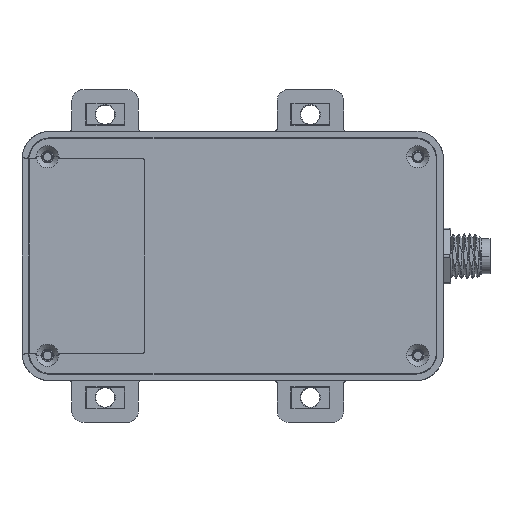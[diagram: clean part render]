
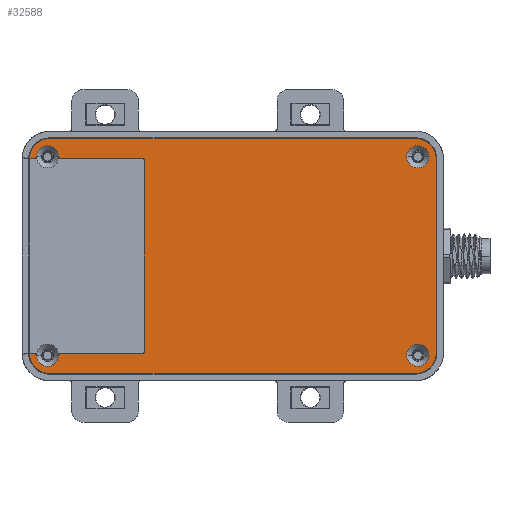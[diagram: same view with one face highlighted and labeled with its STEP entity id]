
A CAD part, top view. The second image highlights one B-rep face of the part: STEP entity #32588.
In plain terms, the highlighted planar face has unit normal (0, 0, 1).
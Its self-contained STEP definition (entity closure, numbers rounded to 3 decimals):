
#29401=CARTESIAN_POINT('',(-52.399,38.55,11.5));
#29402=DIRECTION('',(0.,0.,-1.));
#29403=DIRECTION('',(1.,-0.022,0.));
#29404=AXIS2_PLACEMENT_3D('',#29401,#29402,#29403);
#29406=DIRECTION('',(-1.,0.,0.));
#29407=VECTOR('',#29406,0.997);
#29408=CARTESIAN_POINT('',(-52.399,38.25,11.5));
#29409=LINE('',#29408,#29407);
#29410=CARTESIAN_POINT('',(-49.7,38.1,11.5));
#29411=DIRECTION('',(0.,0.,-1.));
#29412=DIRECTION('',(-0.999,0.041,0.));
#29413=AXIS2_PLACEMENT_3D('',#29410,#29411,#29412);
#29415=DIRECTION('',(1.,0.,0.));
#29416=VECTOR('',#29415,66.);
#29417=CARTESIAN_POINT('',(-49.7,41.8,11.5));
#29418=LINE('',#29417,#29416);
#29419=CARTESIAN_POINT('',(16.3,38.1,11.5));
#29420=DIRECTION('',(0.,0.,-1.));
#29421=DIRECTION('',(0.,1.,0.));
#29422=AXIS2_PLACEMENT_3D('',#29419,#29420,#29421);
#29424=DIRECTION('',(0.,-1.,0.));
#29425=VECTOR('',#29424,35.);
#29426=CARTESIAN_POINT('',(20.,38.1,11.5));
#29427=LINE('',#29426,#29425);
#29428=CARTESIAN_POINT('',(16.3,3.1,11.5));
#29429=DIRECTION('',(0.,0.,-1.));
#29430=DIRECTION('',(1.,0.,0.));
#29431=AXIS2_PLACEMENT_3D('',#29428,#29429,#29430);
#29433=DIRECTION('',(-1.,0.,0.));
#29434=VECTOR('',#29433,66.);
#29435=CARTESIAN_POINT('',(16.3,-0.6,11.5));
#29436=LINE('',#29435,#29434);
#29437=CARTESIAN_POINT('',(-49.7,3.1,11.5));
#29438=DIRECTION('',(0.,0.,-1.));
#29439=DIRECTION('',(0.,-1.,0.));
#29440=AXIS2_PLACEMENT_3D('',#29437,#29438,#29439);
#29442=CARTESIAN_POINT('',(-52.399,2.65,11.5));
#29443=DIRECTION('',(0.,0.,-1.));
#29444=DIRECTION('',(0.,1.,0.));
#29445=AXIS2_PLACEMENT_3D('',#29442,#29443,#29444);
#29447=CARTESIAN_POINT('',(-50.1,2.7,11.5));
#29448=DIRECTION('',(0.,0.,1.));
#29449=DIRECTION('',(-1.,-0.022,0.));
#29450=AXIS2_PLACEMENT_3D('',#29447,#29448,#29449);
#29452=CARTESIAN_POINT('',(-47.801,2.65,11.5));
#29453=DIRECTION('',(0.,0.,-1.));
#29454=DIRECTION('',(-1.,0.022,0.));
#29455=AXIS2_PLACEMENT_3D('',#29452,#29453,#29454);
#29457=CARTESIAN_POINT('',(-32.991,3.25,11.5));
#29458=DIRECTION('',(0.,0.,1.));
#29459=DIRECTION('',(0.,-1.,0.));
#29460=AXIS2_PLACEMENT_3D('',#29457,#29458,#29459);
#29462=CARTESIAN_POINT('',(-32.991,37.95,11.5));
#29463=DIRECTION('',(0.,0.,1.));
#29464=DIRECTION('',(1.,0.,0.));
#29465=AXIS2_PLACEMENT_3D('',#29462,#29463,#29464);
#29467=DIRECTION('',(-1.,0.,0.));
#29468=VECTOR('',#29467,14.809);
#29469=CARTESIAN_POINT('',(-32.991,38.25,11.5));
#29470=LINE('',#29469,#29468);
#29471=CARTESIAN_POINT('',(-47.801,38.55,11.5));
#29472=DIRECTION('',(0.,0.,-1.));
#29473=DIRECTION('',(0.,-1.,0.));
#29474=AXIS2_PLACEMENT_3D('',#29471,#29472,#29473);
#29476=CARTESIAN_POINT('',(-50.1,38.5,11.5));
#29477=DIRECTION('',(0.,0.,1.));
#29478=DIRECTION('',(1.,0.022,0.));
#29479=AXIS2_PLACEMENT_3D('',#29476,#29477,#29478);
#29481=CARTESIAN_POINT('',(16.7,2.7,11.5));
#29482=DIRECTION('',(0.,0.,1.));
#29483=DIRECTION('',(1.,0.,0.));
#29484=AXIS2_PLACEMENT_3D('',#29481,#29482,#29483);
#29486=CARTESIAN_POINT('',(16.7,2.7,11.5));
#29487=DIRECTION('',(0.,0.,1.));
#29488=DIRECTION('',(-1.,0.,0.));
#29489=AXIS2_PLACEMENT_3D('',#29486,#29487,#29488);
#29491=CARTESIAN_POINT('',(16.7,38.5,11.5));
#29492=DIRECTION('',(0.,0.,1.));
#29493=DIRECTION('',(1.,0.,0.));
#29494=AXIS2_PLACEMENT_3D('',#29491,#29492,#29493);
#29496=CARTESIAN_POINT('',(16.7,38.5,11.5));
#29497=DIRECTION('',(0.,0.,1.));
#29498=DIRECTION('',(-1.,0.,0.));
#29499=AXIS2_PLACEMENT_3D('',#29496,#29497,#29498);
#29589=DIRECTION('',(-1.,0.,0.));
#29590=VECTOR('',#29589,14.809);
#29591=CARTESIAN_POINT('',(-32.991,2.95,11.5));
#29592=LINE('',#29591,#29590);
#29633=DIRECTION('',(-1.,0.,
0.));
#29634=VECTOR('',#29633,0.997);
#29635=CARTESIAN_POINT('',(-52.399,2.95,11.5));
#29636=LINE('',#29635,#29634);
#30413=DIRECTION('',(0.,-1.,0.));
#30414=VECTOR('',#30413,34.7);
#30415=CARTESIAN_POINT('',(-32.691,37.95,11.5));
#30416=LINE('',#30415,#30414);
#31825=CARTESIAN_POINT('',(-52.1,38.543,11.5));
#31826=CARTESIAN_POINT('',(-52.399,38.25,11.5));
#31827=VERTEX_POINT('',#31825);
#31828=VERTEX_POINT('',#31826);
#31829=CARTESIAN_POINT('',(-53.397,38.25,11.5));
#31830=VERTEX_POINT('',#31829);
#31831=CARTESIAN_POINT('',(-49.7,41.8,11.5));
#31832=VERTEX_POINT('',#31831);
#31833=CARTESIAN_POINT('',(16.3,41.8,11.5));
#31834=VERTEX_POINT('',#31833);
#31835=CARTESIAN_POINT('',(20.,38.1,11.5));
#31836=VERTEX_POINT('',#31835);
#31837=CARTESIAN_POINT('',(20.,3.1,11.5));
#31838=VERTEX_POINT('',#31837);
#31839=CARTESIAN_POINT('',(16.3,-0.6,11.5));
#31840=VERTEX_POINT('',#31839);
#31841=CARTESIAN_POINT('',(-49.7,-0.6,11.5));
#31842=VERTEX_POINT('',#31841);
#31843=CARTESIAN_POINT('',(-53.397,2.95,11.5));
#31844=VERTEX_POINT('',#31843);
#31845=CARTESIAN_POINT('',(-52.399,2.95,11.5));
#31846=VERTEX_POINT('',#31845);
#31847=CARTESIAN_POINT('',(-52.1,2.657,11.5));
#31848=VERTEX_POINT('',#31847);
#31849=CARTESIAN_POINT('',(-48.1,2.657,11.5));
#31850=VERTEX_POINT('',#31849);
#31851=CARTESIAN_POINT('',(-47.801,2.95,11.5));
#31852=VERTEX_POINT('',#31851);
#31853=CARTESIAN_POINT('',(-32.991,2.95,11.5));
#31854=VERTEX_POINT('',#31853);
#31855=CARTESIAN_POINT('',(-32.691,3.25,11.5));
#31856=VERTEX_POINT('',#31855);
#31857=CARTESIAN_POINT('',(-32.691,37.95,11.5));
#31858=VERTEX_POINT('',#31857);
#31859=CARTESIAN_POINT('',(-32.991,38.25,11.5));
#31860=VERTEX_POINT('',#31859);
#31861=CARTESIAN_POINT('',(-47.801,38.25,11.5));
#31862=VERTEX_POINT('',#31861);
#31863=CARTESIAN_POINT('',(-48.1,38.543,11.5));
#31864=VERTEX_POINT('',#31863);
#31865=CARTESIAN_POINT('',(18.7,2.7,11.5));
#31866=CARTESIAN_POINT('',(14.7,2.7,11.5));
#31867=VERTEX_POINT('',#31865);
#31868=VERTEX_POINT('',#31866);
#31869=CARTESIAN_POINT('',(18.7,38.5,11.5));
#31870=CARTESIAN_POINT('',(14.7,38.5,11.5));
#31871=VERTEX_POINT('',#31869);
#31872=VERTEX_POINT('',#31870);
#32529=CARTESIAN_POINT('',(0.,-1.9,11.5));
#32530=DIRECTION('',(0.,0.,1.));
#32531=DIRECTION('',(1.,0.,0.));
#32532=AXIS2_PLACEMENT_3D('',#32529,#32530,#32531);
#32533=PLANE('',#32532);
#32535=ORIENTED_EDGE('',*,*,#32534,.T.);
#32537=ORIENTED_EDGE('',*,*,#32536,.T.);
#32539=ORIENTED_EDGE('',*,*,#32538,.T.);
#32541=ORIENTED_EDGE('',*,*,#32540,.T.);
#32543=ORIENTED_EDGE('',*,*,#32542,.T.);
#32545=ORIENTED_EDGE('',*,*,#32544,.T.);
#32547=ORIENTED_EDGE('',*,*,#32546,.T.);
#32549=ORIENTED_EDGE('',*,*,#32548,.T.);
#32551=ORIENTED_EDGE('',*,*,#32550,.T.);
#32553=ORIENTED_EDGE('',*,*,#32552,.F.);
#32555=ORIENTED_EDGE('',*,*,#32554,.T.);
#32557=ORIENTED_EDGE('',*,*,#32556,.T.);
#32559=ORIENTED_EDGE('',*,*,#32558,.T.);
#32561=ORIENTED_EDGE('',*,*,#32560,.F.);
#32563=ORIENTED_EDGE('',*,*,#32562,.T.);
#32565=ORIENTED_EDGE('',*,*,#32564,.F.);
#32567=ORIENTED_EDGE('',*,*,#32566,.T.);
#32569=ORIENTED_EDGE('',*,*,#32568,.T.);
#32571=ORIENTED_EDGE('',*,*,#32570,.T.);
#32573=ORIENTED_EDGE('',*,*,#32572,.T.);
#32574=EDGE_LOOP('',(#32535,#32537,#32539,#32541,#32543,#32545,#32547,#32549,
#32551,#32553,#32555,#32557,#32559,#32561,#32563,#32565,#32567,#32569,#32571,
#32573));
#32575=FACE_OUTER_BOUND('',#32574,.F.);
#32577=ORIENTED_EDGE('',*,*,#32576,.T.);
#32579=ORIENTED_EDGE('',*,*,#32578,.T.);
#32580=EDGE_LOOP('',(#32577,#32579));
#32581=FACE_BOUND('',#32580,.F.);
#32583=ORIENTED_EDGE('',*,*,#32582,.T.);
#32585=ORIENTED_EDGE('',*,*,#32584,.T.);
#32586=EDGE_LOOP('',(#32583,#32585));
#32587=FACE_BOUND('',#32586,.F.);
#29405=CIRCLE('',#29404,0.3);
#29414=CIRCLE('',#29413,3.7);
#29423=CIRCLE('',#29422,3.7);
#29432=CIRCLE('',#29431,3.7);
#29441=CIRCLE('',#29440,3.7);
#29446=CIRCLE('',#29445,0.3);
#29451=CIRCLE('',#29450,2.);
#29456=CIRCLE('',#29455,0.3);
#29461=CIRCLE('',#29460,0.3);
#29466=CIRCLE('',#29465,0.3);
#29475=CIRCLE('',#29474,0.3);
#29480=CIRCLE('',#29479,2.);
#29485=CIRCLE('',#29484,2.);
#29490=CIRCLE('',#29489,2.);
#29495=CIRCLE('',#29494,2.);
#29500=CIRCLE('',#29499,2.);
#32534=EDGE_CURVE('',#31827,#31828,#29405,.T.);
#32536=EDGE_CURVE('',#31828,#31830,#29409,.T.);
#32538=EDGE_CURVE('',#31830,#31832,#29414,.T.);
#32540=EDGE_CURVE('',#31832,#31834,#29418,.T.);
#32542=EDGE_CURVE('',#31834,#31836,#29423,.T.);
#32544=EDGE_CURVE('',#31836,#31838,#29427,.T.);
#32546=EDGE_CURVE('',#31838,#31840,#29432,.T.);
#32548=EDGE_CURVE('',#31840,#31842,#29436,.T.);
#32550=EDGE_CURVE('',#31842,#31844,#29441,.T.);
#32552=EDGE_CURVE('',#31846,#31844,#29636,.T.);
#32554=EDGE_CURVE('',#31846,#31848,#29446,.T.);
#32556=EDGE_CURVE('',#31848,#31850,#29451,.T.);
#32558=EDGE_CURVE('',#31850,#31852,#29456,.T.);
#32560=EDGE_CURVE('',#31854,#31852,#29592,.T.);
#32562=EDGE_CURVE('',#31854,#31856,#29461,.T.);
#32564=EDGE_CURVE('',#31858,#31856,#30416,.T.);
#32566=EDGE_CURVE('',#31858,#31860,#29466,.T.);
#32568=EDGE_CURVE('',#31860,#31862,#29470,.T.);
#32570=EDGE_CURVE('',#31862,#31864,#29475,.T.);
#32572=EDGE_CURVE('',#31864,#31827,#29480,.T.);
#32576=EDGE_CURVE('',#31867,#31868,#29485,.T.);
#32578=EDGE_CURVE('',#31868,#31867,#29490,.T.);
#32582=EDGE_CURVE('',#31871,#31872,#29495,.T.);
#32584=EDGE_CURVE('',#31872,#31871,#29500,.T.);
#32588=ADVANCED_FACE('',(#32575,#32581,#32587),#32533,.T.);
